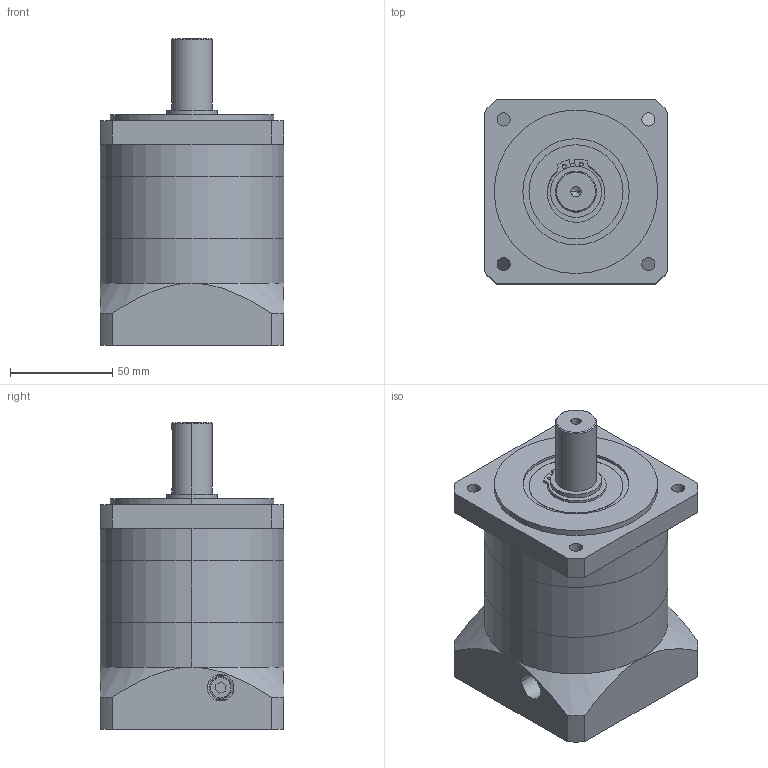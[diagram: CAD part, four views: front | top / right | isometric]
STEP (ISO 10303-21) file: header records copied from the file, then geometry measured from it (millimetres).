
FILE_DESCRIPTION (( 'STEP AP203' ), '1' );
FILE_NAME ('SPLF90-L1MA.STEP', '2021-07-19T02:01:40', ( '' ), ( '' ), 'SwSTEP 2.0', 'SolidWorks 2016', '' );
FILE_SCHEMA (( 'CONFIG_CONTROL_DESIGN' ));
Length unit declared in the file: millimetre
Products named in the file (9): GB／T70．1-2000内六角圆柱头螺钉M6×20; 90怀堤楊擘; 俋縐銅25; 90输入法兰; GB／T276-94深沟球轴承6205-RS; SPLF90-输入端MA; 90齿圈1; SPLF90-L1MA; 90输入轴
Assembly tree (13 placements, depth 3):
  SPLF90-L1MA
    90怀堤楊擘
    90齿圈1
    SPLF90-输入端MA
      90输入法兰
      90输入轴
      GB／T276-94深沟球轴承6205-RS
      GB／T70．1-2000内六角圆柱头螺钉M6×20  x6
    俋縐銅25
Bounding box: 90 x 90 x 150.2 mm (x, y, z)
Volume: 675974.8 mm3; surface area: 128552.5 mm2
Topology: 12 solids, 12 shells, 544 faces, 1420 edges, 903 vertices
Faces by surface type: cylinder 187, plane 145, torus 84, sphere 72, cone 56
Entity records: 18634 total; most frequent: CARTESIAN_POINT 6285, DIRECTION 2425, ORIENTED_EDGE 2380, EDGE_CURVE 1190, AXIS2_PLACEMENT_3D 1067, VERTEX_POINT 773, CIRCLE 606, EDGE_LOOP 529
